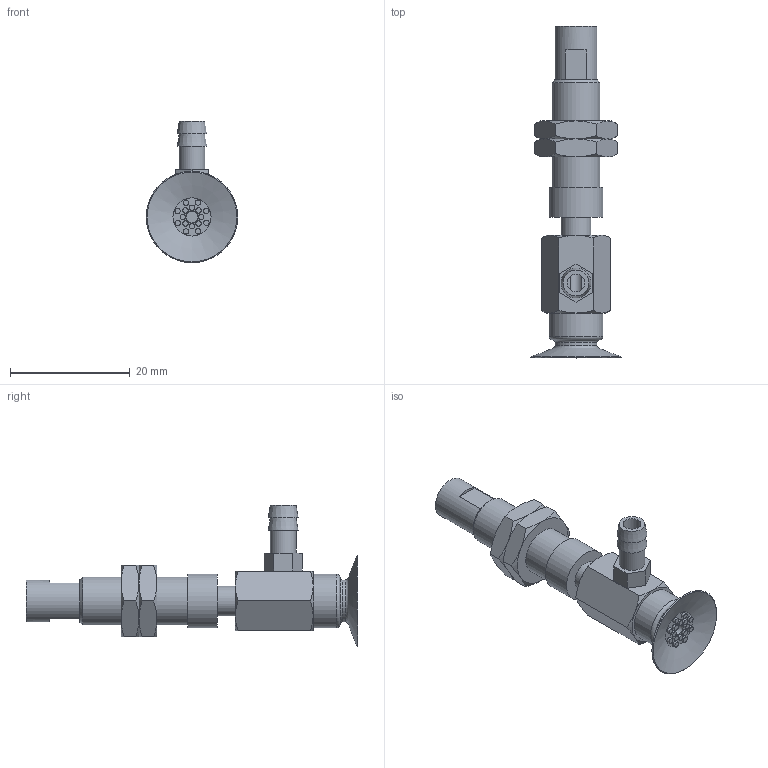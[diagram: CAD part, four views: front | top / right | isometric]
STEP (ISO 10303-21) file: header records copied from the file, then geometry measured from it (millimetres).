
FILE_DESCRIPTION(('STEP AP203'),'1');
FILE_NAME('-T.stp','2025-02-13T07:22:06',(' '),(' '),'Spatial InterOp 3D',' ',' ');
FILE_SCHEMA(('CONFIG_CONTROL_DESIGN'));
Length unit declared in the file: millimetre
Products named in the file (7): BNABPAYS-15A-3-※-T; NAPAYS-10A-3--M; NAPAYS-10A-3--F; Nut-10A-S; CONNECTOR-10A-3-PA; BPAG-15A-※_3D; T
Assembly tree (7 placements, depth 2):
  BNABPAYS-15A-3-※-T
    NAPAYS-10A-3--M
    NAPAYS-10A-3--F
    Nut-10A-S  x2
    CONNECTOR-10A-3-PA
    BPAG-15A-※_3D
    T
Bounding box: 15.3 x 55.5 x 23.65 mm (x, y, z)
Volume: 3585.1 mm3; surface area: 4670.1 mm2
Topology: 7 solids, 7 shells, 178 faces, 352 edges, 217 vertices
Faces by surface type: plane 79, cone 53, cylinder 37, torus 9
Full cylindrical faces by diameter (mm): 0.9 x16, 2 x2, 3 x1, 4 x2, 4.134 x2, 4.3 x1, 5 x4, 6 x2, 7 x2, 7.188 x2, 8 x1, 9 x2
Entity records: 4210 total; most frequent: CARTESIAN_POINT 929, DIRECTION 634, ORIENTED_EDGE 474, AXIS2_PLACEMENT_3D 288, EDGE_LOOP 254, EDGE_CURVE 237, FACE_OUTER_BOUND 200, VERTEX_POINT 181
